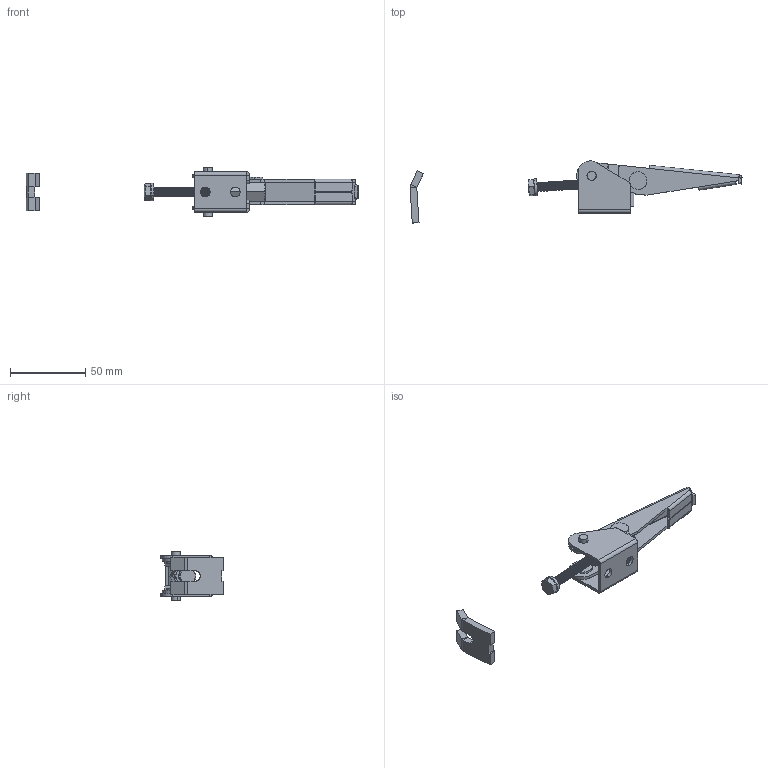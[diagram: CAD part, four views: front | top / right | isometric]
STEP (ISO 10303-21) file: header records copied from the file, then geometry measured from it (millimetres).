
FILE_DESCRIPTION (( 'STEP AP214' ), '1' );
FILE_NAME ('ISK-FA1200.STEP', '2015-06-30T07:00:26', ( '' ), ( '' ), 'SwSTEP 2.0', 'SolidWorks 2015', '' );
FILE_SCHEMA (( 'AUTOMOTIVE_DESIGN' ));
Length unit declared in the file: millimetre
Products named in the file (10): hexagon nut_3_jis_JIS B 1181 Hexagon nut - Class 3 Finished M6 --N; small circular plain washer_jis_JIS B 1256 Small circular 6; continuous thread hexagon head bolt_a_jis_JIS B 1180 Continuous thread hexagon head bolt A M6 x 50 --S; Plate; H_nut M6L32; Handle-2; Base; ISK-FA1200; thin head rivets gb_GB_CONNECTING_PIECE_RIVET_THR 6X17; thin head rivets gb_GB_CONNECTING_PIECE_RIVET_THR 6X7
Assembly tree (10 placements, depth 2):
  ISK-FA1200
    Base
    Handle-2
    H_nut M6L32
    Plate
    continuous thread hexagon head bolt_a_jis_JIS B 1180 Continuous thread hexagon head bolt A M6 x 50 --S
    small circular plain washer_jis_JIS B 1256 Small circular 6
    hexagon nut_3_jis_JIS B 1181 Hexagon nut - Class 3 Finished M6 --N
    thin head rivets gb_GB_CONNECTING_PIECE_RIVET_THR 6X7  x2
    thin head rivets gb_GB_CONNECTING_PIECE_RIVET_THR 6X17
Bounding box: 221.14 x 41.4 x 32.73 mm (x, y, z)
Volume: 23537.9 mm3; surface area: 23372.6 mm2
Topology: 10 solids, 10 shells, 608 faces, 1507 edges, 917 vertices
Faces by surface type: cone 232, cylinder 193, plane 169, torus 8, sphere 6
Entity records: 18566 total; most frequent: CARTESIAN_POINT 3442, DIRECTION 3382, ORIENTED_EDGE 2952, EDGE_CURVE 1476, AXIS2_PLACEMENT_3D 1352, VERTEX_POINT 898, CIRCLE 740, LINE 678
